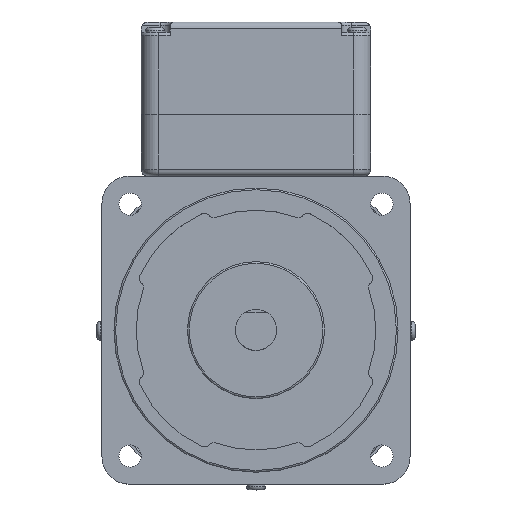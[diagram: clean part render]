
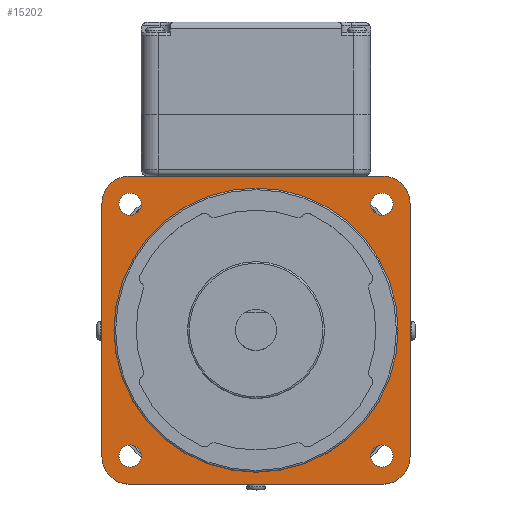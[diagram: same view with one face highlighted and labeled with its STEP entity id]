
A CAD part, top view. The second image highlights one B-rep face of the part: STEP entity #15202.
In plain terms, the highlighted planar face has unit normal (0, 0, 1).
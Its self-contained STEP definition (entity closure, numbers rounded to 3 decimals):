
#13143=CARTESIAN_POINT('',(-37.,-45.0,135.));
#13144=VERTEX_POINT('',#13143);
#13151=CARTESIAN_POINT('',(-45.0,-37.0,135.));
#13152=VERTEX_POINT('',#13151);
#13153=CARTESIAN_POINT('',(-37.0,-37.0,135.));
#13154=DIRECTION('',(0.0,0.0,-1.0));
#13155=DIRECTION('',(1.0,0.0,0.0));
#13156=AXIS2_PLACEMENT_3D('',#13153,#13154,#13155);
#13157=CIRCLE('',#13156,8.);
#13158=EDGE_CURVE('',#13144,#13152,#13157,.T.);
#13177=CARTESIAN_POINT('',(-33.52,-36.77,135.));
#13178=VERTEX_POINT('',#13177);
#13179=CARTESIAN_POINT('',(-36.77,-36.77,135.));
#13180=DIRECTION('',(0.0,0.0,-1.0));
#13181=DIRECTION('',(-1.0,0.0,0.0));
#13182=AXIS2_PLACEMENT_3D('',#13179,#13180,#13181);
#13183=CIRCLE('',#13182,3.25);
#13184=EDGE_CURVE('',#13178,#13178,#13183,.T.);
#13194=CARTESIAN_POINT('',(37.0,-45.0,135.));
#13195=VERTEX_POINT('',#13194);
#13196=CARTESIAN_POINT('',(37.0,-45.0,135.));
#13197=DIRECTION('',(-1.0,0.0,0.0));
#13198=VECTOR('',#13197,74.0);
#13199=LINE('',#13196,#13198);
#13200=EDGE_CURVE('',#13195,#13144,#13199,.T.);
#13242=CARTESIAN_POINT('',(45.0,-37.,135.));
#13243=VERTEX_POINT('',#13242);
#13250=CARTESIAN_POINT('',(37.0,-37.0,135.));
#13251=DIRECTION('',(0.0,0.0,-1.0));
#13252=DIRECTION('',(0.0,1.0,0.0));
#13253=AXIS2_PLACEMENT_3D('',#13250,#13251,#13252);
#13254=CIRCLE('',#13253,8.);
#13255=EDGE_CURVE('',#13243,#13195,#13254,.T.);
#13269=CARTESIAN_POINT('',(40.02,-36.77,135.));
#13270=VERTEX_POINT('',#13269);
#13271=CARTESIAN_POINT('',(36.77,-36.77,135.));
#13272=DIRECTION('',(0.0,0.0,-1.0));
#13273=DIRECTION('',(-1.0,0.0,0.0));
#13274=AXIS2_PLACEMENT_3D('',#13271,#13272,#13273);
#13275=CIRCLE('',#13274,3.25);
#13276=EDGE_CURVE('',#13270,#13270,#13275,.T.);
#13337=CARTESIAN_POINT('',(-45.0,37.,135.));
#13338=VERTEX_POINT('',#13337);
#13345=CARTESIAN_POINT('',(-37.0,45.0,135.));
#13346=VERTEX_POINT('',#13345);
#13347=CARTESIAN_POINT('',(-37.0,37.0,135.));
#13348=DIRECTION('',(0.0,0.0,-1.0));
#13349=DIRECTION('',(0.0,-1.0,0.0));
#13350=AXIS2_PLACEMENT_3D('',#13347,#13348,#13349);
#13351=CIRCLE('',#13350,8.);
#13352=EDGE_CURVE('',#13338,#13346,#13351,.T.);
#13368=CARTESIAN_POINT('',(-45.0,-37.0,135.));
#13369=DIRECTION('',(0.0,1.0,0.0));
#13370=VECTOR('',#13369,74.0);
#13371=LINE('',#13368,#13370);
#13372=EDGE_CURVE('',#13152,#13338,#13371,.T.);
#13434=CARTESIAN_POINT('',(-33.52,36.77,135.));
#13435=VERTEX_POINT('',#13434);
#13436=CARTESIAN_POINT('',(-36.77,36.77,135.));
#13437=DIRECTION('',(0.0,0.0,-1.0));
#13438=DIRECTION('',(-1.0,0.0,0.0));
#13439=AXIS2_PLACEMENT_3D('',#13436,#13437,#13438);
#13440=CIRCLE('',#13439,3.25);
#13441=EDGE_CURVE('',#13435,#13435,#13440,.T.);
#13734=CARTESIAN_POINT('',(45.0,37.0,135.));
#13735=VERTEX_POINT('',#13734);
#13736=CARTESIAN_POINT('',(45.0,37.0,135.));
#13737=DIRECTION('',(0.0,-1.0,0.0));
#13738=VECTOR('',#13737,74.0);
#13739=LINE('',#13736,#13738);
#13740=EDGE_CURVE('',#13735,#13243,#13739,.T.);
#13780=CARTESIAN_POINT('',(37.,45.0,135.));
#13781=VERTEX_POINT('',#13780);
#13788=CARTESIAN_POINT('',(37.0,37.0,135.));
#13789=DIRECTION('',(0.0,0.0,-1.0));
#13790=DIRECTION('',(-1.0,0.0,0.0));
#13791=AXIS2_PLACEMENT_3D('',#13788,#13789,#13790);
#13792=CIRCLE('',#13791,8.);
#13793=EDGE_CURVE('',#13781,#13735,#13792,.T.);
#13821=CARTESIAN_POINT('',(-37.0,45.0,135.));
#13822=DIRECTION('',(1.0,0.0,0.0));
#13823=VECTOR('',#13822,74.0);
#13824=LINE('',#13821,#13823);
#13825=EDGE_CURVE('',#13346,#13781,#13824,.T.);
#13947=CARTESIAN_POINT('',(40.02,36.77,135.));
#13948=VERTEX_POINT('',#13947);
#13949=CARTESIAN_POINT('',(36.77,36.77,135.));
#13950=DIRECTION('',(0.0,0.0,-1.0));
#13951=DIRECTION('',(-1.0,0.0,0.0));
#13952=AXIS2_PLACEMENT_3D('',#13949,#13950,#13951);
#13953=CIRCLE('',#13952,3.25);
#13954=EDGE_CURVE('',#13948,#13948,#13953,.T.);
#15157=CARTESIAN_POINT('',(41.5,0.,135.));
#15158=VERTEX_POINT('',#15157);
#15159=CARTESIAN_POINT('',(0.,0.,135.));
#15160=DIRECTION('',(0.0,0.0,-1.0));
#15161=DIRECTION('',(-1.0,0.0,0.0));
#15162=AXIS2_PLACEMENT_3D('',#15159,#15160,#15161);
#15163=CIRCLE('',#15162,41.5);
#15164=EDGE_CURVE('',#15158,#15158,#15163,.T.);
#15172=CARTESIAN_POINT('',(0.,0.,135.));
#15173=DIRECTION('',(0.0,0.0,-1.0));
#15174=DIRECTION('',(-1.0,0.0,0.0));
#15175=AXIS2_PLACEMENT_3D('',#15172,#15173,#15174);
#15176=PLANE('',#15175);
#15177=ORIENTED_EDGE('',*,*,#13740,.F.);
#15178=ORIENTED_EDGE('',*,*,#13793,.F.);
#15179=ORIENTED_EDGE('',*,*,#13825,.F.);
#15180=ORIENTED_EDGE('',*,*,#13352,.F.);
#15181=ORIENTED_EDGE('',*,*,#13372,.F.);
#15182=ORIENTED_EDGE('',*,*,#13158,.F.);
#15183=ORIENTED_EDGE('',*,*,#13200,.F.);
#15184=ORIENTED_EDGE('',*,*,#13255,.F.);
#15185=EDGE_LOOP('',(#15177,#15178,#15179,#15180,#15181,#15182,#15183,#15184));
#15186=FACE_OUTER_BOUND('',#15185,.T.);
#15187=ORIENTED_EDGE('',*,*,#15164,.T.);
#15188=EDGE_LOOP('',(#15187));
#15189=FACE_BOUND('',#15188,.T.);
#15190=ORIENTED_EDGE('',*,*,#13441,.T.);
#15191=EDGE_LOOP('',(#15190));
#15192=FACE_BOUND('',#15191,.T.);
#15193=ORIENTED_EDGE('',*,*,#13184,.T.);
#15194=EDGE_LOOP('',(#15193));
#15195=FACE_BOUND('',#15194,.T.);
#15196=ORIENTED_EDGE('',*,*,#13276,.T.);
#15197=EDGE_LOOP('',(#15196));
#15198=FACE_BOUND('',#15197,.T.);
#15199=ORIENTED_EDGE('',*,*,#13954,.T.);
#15200=EDGE_LOOP('',(#15199));
#15201=FACE_BOUND('',#15200,.T.);
#15202=ADVANCED_FACE('',(#15186,#15189,#15192,#15195,#15198,#15201),#15176,.F.);
